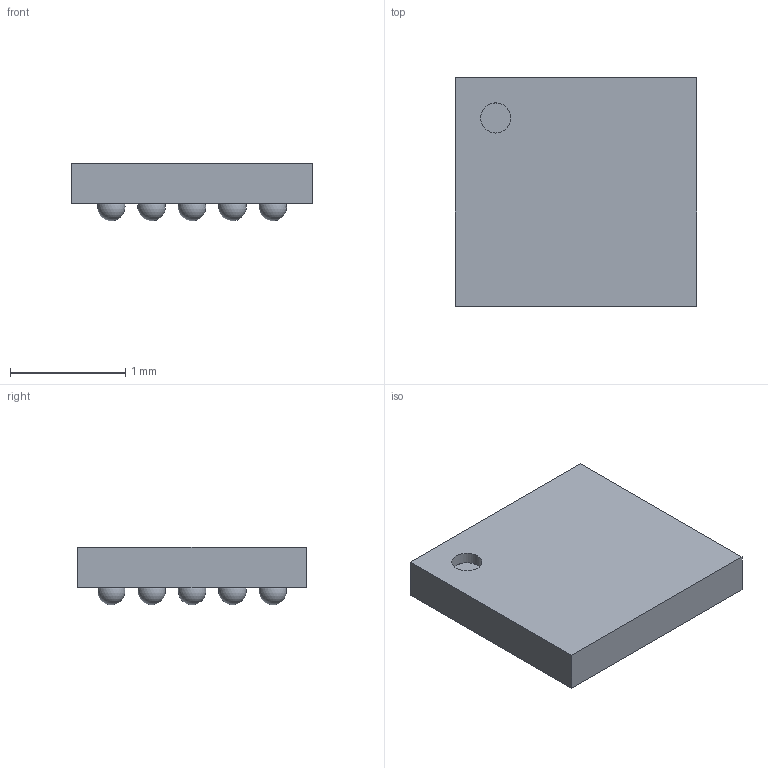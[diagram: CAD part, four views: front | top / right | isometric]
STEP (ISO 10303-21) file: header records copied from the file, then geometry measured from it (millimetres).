
FILE_DESCRIPTION(('Open CASCADE Model'),'2;1');
FILE_NAME('Open CASCADE Shape Model','2022-11-15T20:05:13',('Author'),( 'Open CASCADE'),'Open CASCADE STEP processor 6.8','Open CASCADE 6.8' ,'Unknown');
FILE_SCHEMA(('AUTOMOTIVE_DESIGN { 1 0 10303 214 1 1 1 1 }'));
Length unit declared in the file: millimetre
Products named in the file (5): BGA25C35P5X5_209X198X50.step; Open CASCADE STEP translator 6.8 135.1; Body; Open CASCADE STEP translator 6.8 135.2.1; ball
Assembly tree (28 placements, depth 3):
  BGA25C35P5X5_209X198X50.step
    Open CASCADE STEP translator 6.8 135.1
    Body
      Open CASCADE STEP translator 6.8 135.2.1
    ball  x25
Bounding box: 2.09 x 1.98 x 0.5 mm (x, y, z)
Volume: 1.6 mm3; surface area: 15.8 mm2
Topology: 26 solids, 27 shells, 34 faces, 91 edges, 61 vertices
Faces by surface type: sphere 25, plane 8, cylinder 1
Full cylindrical faces by diameter (mm): 0.261 x1
Entity records: 539 total; most frequent: DIRECTION 97, CARTESIAN_POINT 67, AXIS2_PLACEMENT_3D 42, PRODUCT_DEFINITION_SHAPE 33, ORIENTED_EDGE 31, CONTEXT_DEPENDENT_SHAPE_REPRESENTATION 28, ITEM_DEFINED_TRANSFORMATION 28, NEXT_ASSEMBLY_USAGE_OCCURRENCE 28
